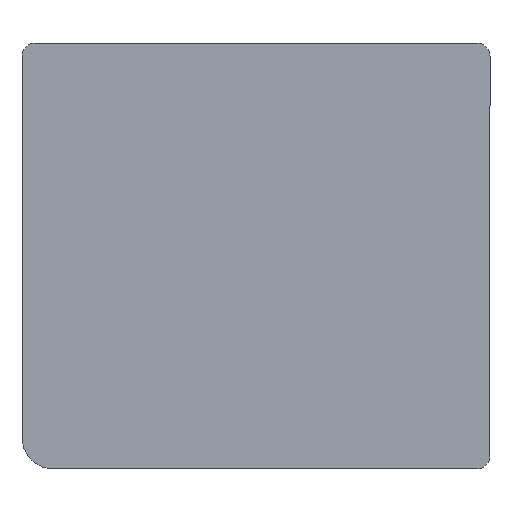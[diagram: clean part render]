
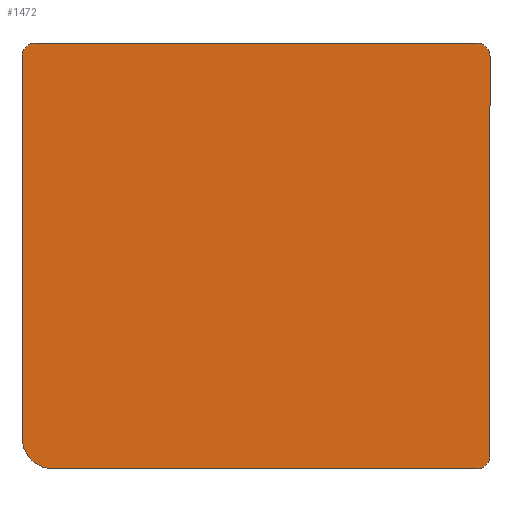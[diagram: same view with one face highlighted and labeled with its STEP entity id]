
A CAD part, front view. The second image highlights one B-rep face of the part: STEP entity #1472.
In plain terms, the highlighted planar face has unit normal (0, -1, 0).
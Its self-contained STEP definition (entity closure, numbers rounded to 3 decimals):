
#1236=CARTESIAN_POINT('',(-81.534,0.0,-247.921));
#1237=VERTEX_POINT('',#1236);
#1244=CARTESIAN_POINT('',(-93.534,0.0,-235.921));
#1245=VERTEX_POINT('',#1244);
#1246=CARTESIAN_POINT('',(-81.534,0.0,-235.921));
#1247=DIRECTION('',(0.0,1.0,0.0));
#1248=DIRECTION('',(1.0,0.0,0.0));
#1249=AXIS2_PLACEMENT_3D('',#1246,#1247,#1248);
#1250=CIRCLE('',#1249,12.);
#1251=EDGE_CURVE('',#1237,#1245,#1250,.T.);
#1269=CARTESIAN_POINT('',(-93.534,0.0,-90.921));
#1270=VERTEX_POINT('',#1269);
#1271=CARTESIAN_POINT('',(-93.534,0.0,-235.921));
#1272=DIRECTION('',(0.0,0.0,1.0));
#1273=VECTOR('',#1272,145.0);
#1274=LINE('',#1271,#1273);
#1275=EDGE_CURVE('',#1245,#1270,#1274,.T.);
#1299=CARTESIAN_POINT('',(-88.534,0.0,-85.921));
#1300=VERTEX_POINT('',#1299);
#1301=CARTESIAN_POINT('',(-88.534,0.0,-90.921));
#1302=DIRECTION('',(0.0,1.0,0.0));
#1303=DIRECTION('',(0.0,0.0,-1.0));
#1304=AXIS2_PLACEMENT_3D('',#1301,#1302,#1303);
#1305=CIRCLE('',#1304,5.);
#1306=EDGE_CURVE('',#1270,#1300,#1305,.T.);
#1324=CARTESIAN_POINT('',(79.466,0.0,-85.921));
#1325=VERTEX_POINT('',#1324);
#1326=CARTESIAN_POINT('',(-88.534,0.0,-85.921));
#1327=DIRECTION('',(1.0,0.0,0.0));
#1328=VECTOR('',#1327,168.0);
#1329=LINE('',#1326,#1328);
#1330=EDGE_CURVE('',#1300,#1325,#1329,.T.);
#1366=CARTESIAN_POINT('',(84.466,0.0,-242.921));
#1367=VERTEX_POINT('',#1366);
#1374=CARTESIAN_POINT('',(79.466,0.0,-247.921));
#1375=VERTEX_POINT('',#1374);
#1376=CARTESIAN_POINT('',(79.466,0.0,-242.921));
#1377=DIRECTION('',(0.0,1.0,0.0));
#1378=DIRECTION('',(0.0,0.0,1.0));
#1379=AXIS2_PLACEMENT_3D('',#1376,#1377,#1378);
#1380=CIRCLE('',#1379,5.0);
#1381=EDGE_CURVE('',#1367,#1375,#1380,.T.);
#1399=CARTESIAN_POINT('',(79.466,0.0,-247.921));
#1400=DIRECTION('',(-1.0,0.0,0.0));
#1401=VECTOR('',#1400,161.);
#1402=LINE('',#1399,#1401);
#1403=EDGE_CURVE('',#1375,#1237,#1402,.T.);
#1422=CARTESIAN_POINT('',(84.466,0.0,-90.921));
#1423=VERTEX_POINT('',#1422);
#1424=CARTESIAN_POINT('',(79.466,0.0,-90.921));
#1425=DIRECTION('',(0.0,1.0,0.0));
#1426=DIRECTION('',(-1.0,0.0,0.0));
#1427=AXIS2_PLACEMENT_3D('',#1424,#1425,#1426);
#1428=CIRCLE('',#1427,5.0);
#1429=EDGE_CURVE('',#1325,#1423,#1428,.T.);
#1447=CARTESIAN_POINT('',(84.466,0.0,-90.921));
#1448=DIRECTION('',(0.0,0.0,-1.0));
#1449=VECTOR('',#1448,152.);
#1450=LINE('',#1447,#1449);
#1451=EDGE_CURVE('',#1423,#1367,#1450,.T.);
#1457=CARTESIAN_POINT('',(-3.768,0.0,-166.225));
#1458=DIRECTION('',(0.0,-1.0,0.0));
#1459=DIRECTION('',(0.0,0.0,-1.0));
#1460=AXIS2_PLACEMENT_3D('',#1457,#1458,#1459);
#1461=PLANE('',#1460);
#1462=ORIENTED_EDGE('',*,*,#1451,.F.);
#1463=ORIENTED_EDGE('',*,*,#1429,.F.);
#1464=ORIENTED_EDGE('',*,*,#1330,.F.);
#1465=ORIENTED_EDGE('',*,*,#1306,.F.);
#1466=ORIENTED_EDGE('',*,*,#1275,.F.);
#1467=ORIENTED_EDGE('',*,*,#1251,.F.);
#1468=ORIENTED_EDGE('',*,*,#1403,.F.);
#1469=ORIENTED_EDGE('',*,*,#1381,.F.);
#1470=EDGE_LOOP('',(#1462,#1463,#1464,#1465,#1466,#1467,#1468,#1469));
#1471=FACE_OUTER_BOUND('',#1470,.T.);
#1472=ADVANCED_FACE('',(#1471),#1461,.T.);
